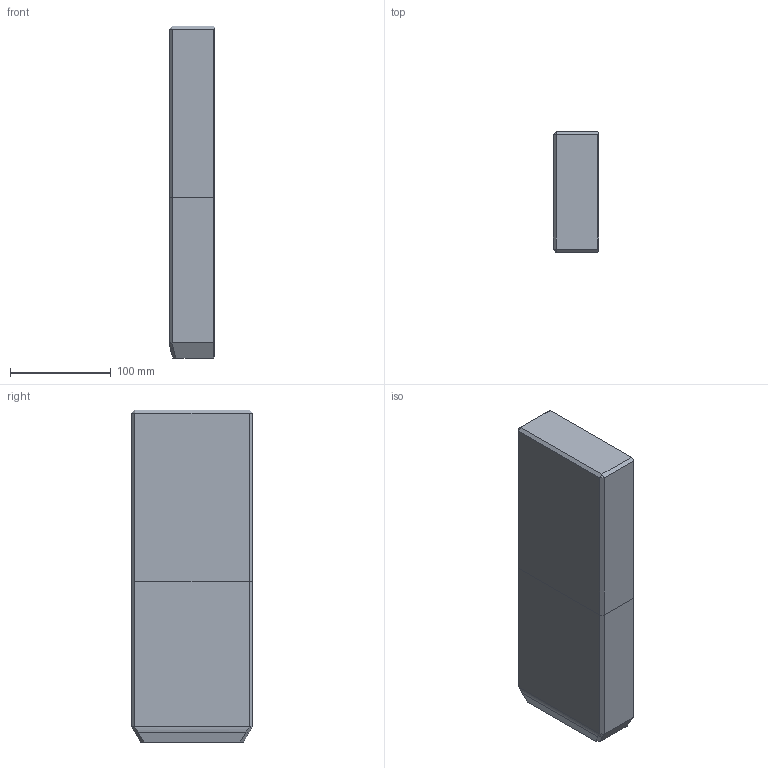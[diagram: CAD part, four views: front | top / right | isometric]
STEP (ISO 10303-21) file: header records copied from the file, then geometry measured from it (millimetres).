
FILE_DESCRIPTION((''),'2;1');
FILE_NAME('','2010-08-30T18:06:56+09:00',('misumi'),(''),'M/STEP i/f 1R2-14','CADmeister v5.1','');
FILE_SCHEMA(('AUTOMOTIVE_DESIGN'));
Length unit declared in the file: millimetre
Products named in the file (1): OGG120-330
Bounding box: 45 x 120 x 330 mm (x, y, z)
Volume: 1766171.5 mm3; surface area: 117584.1 mm2
Topology: 1 solids, 1 shells, 36 faces, 82 edges, 49 vertices
Faces by surface type: plane 28, bspline 5, cylinder 3
Entity records: 1556 total; most frequent: CARTESIAN_POINT 711, ORIENTED_EDGE 164, DIRECTION 134, EDGE_CURVE 82, LINE 62, VECTOR 62, VERTEX_POINT 49, EDGE_LOOP 37
